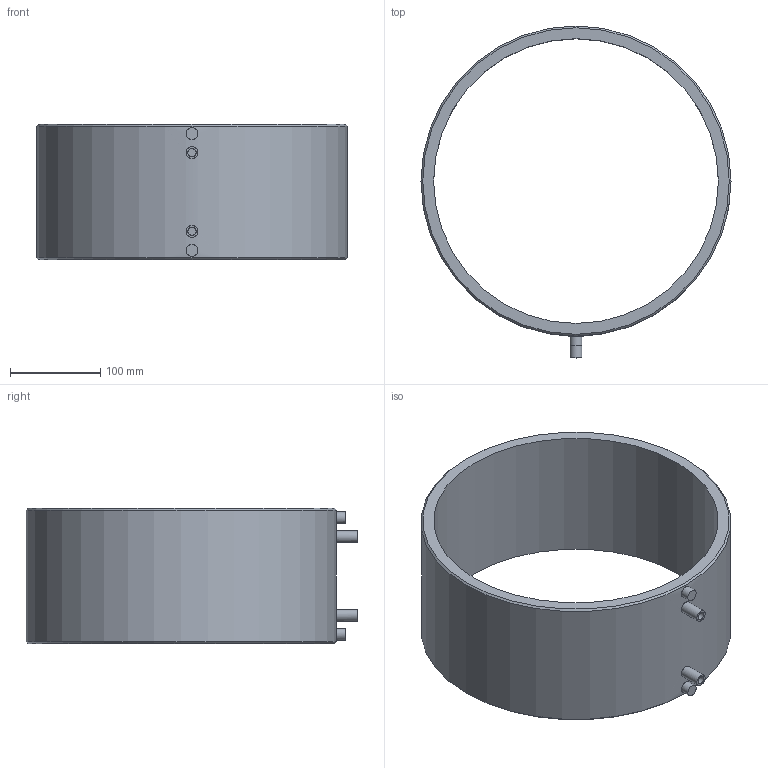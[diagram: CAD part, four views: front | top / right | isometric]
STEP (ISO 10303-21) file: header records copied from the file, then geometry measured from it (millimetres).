
FILE_DESCRIPTION(/* description */ (''),/* implementation_level */ '2;1');
FILE_NAME(/* name */ 'Z:\Geberit\Export\NewStep\372775.stp',/* time_stamp */ '2014-04-02T08:07:21+02:00',/* author */ ('Marco'),/* organization */ (''),/* preprocessor_version */ 'ST-DEVELOPER v15.2',/* originating_system */ 'Autodesk Inventor 2014',/* authorisation */ '');
FILE_SCHEMA (('AUTOMOTIVE_DESIGN { 1 0 10303 214 3 1 1 }'));
Length unit declared in the file: millimetre
Products named in the file (1): 372775
Bounding box: 343 x 367 x 150 mm (x, y, z)
Volume: 2172165.6 mm3; surface area: 340625.5 mm2
Topology: 1 solids, 1 shells, 18 faces, 28 edges, 18 vertices
Faces by surface type: cylinder 10, plane 6, cone 2
Full cylindrical faces by diameter (mm): 9 x2, 13 x4, 315 x1, 343 x1
Entity records: 569 total; most frequent: CARTESIAN_POINT 253, DIRECTION 62, EDGE_LOOP 36, ORIENTED_EDGE 36, AXIS2_PLACEMENT_3D 31, FACE_BOUND 22, VERTEX_POINT 18, EDGE_CURVE 18
